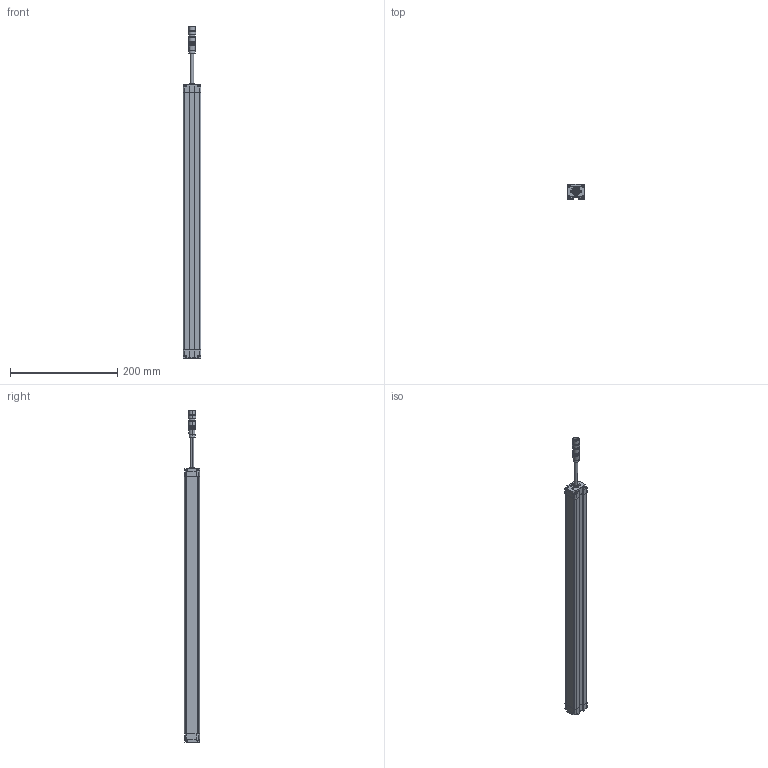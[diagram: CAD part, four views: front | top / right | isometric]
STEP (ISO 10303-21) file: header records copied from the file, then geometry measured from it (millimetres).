
FILE_DESCRIPTION((''),'2;1');
FILE_NAME('SMT1-CGQ_ASM','2025-08-08T08:25:43',('Administrator'),(''),'CREO PARAMETRIC BY PTC INC, 2016510','CREO PARAMETRIC BY PTC INC, 2016510','');
FILE_SCHEMA(('CONFIG_CONTROL_DESIGN'));
Length unit declared in the file: millimetre
Products named in the file (7): SMT1-XINGCAI-V1; SMT1-SDG-V1; SMT1-XDG-V1; M12-CHATOU; ST3X18; CT4-LVGUANGBAN; SMT1-CGQ_ASM
Assembly tree (13 placements, depth 2):
  SMT1-CGQ_ASM
    SMT1-XINGCAI-V1
    SMT1-SDG-V1
    SMT1-XDG-V1
    M12-CHATOU
    ST3X18  x8
    CT4-LVGUANGBAN
Bounding box: 33 x 28.02 x 619.5 mm (x, y, z)
Volume: 399518.3 mm3; surface area: 132328.7 mm2
Topology: 13 solids, 13 shells, 712 faces, 1868 edges, 1200 vertices
Faces by surface type: plane 382, cylinder 184, extrusion 86, sphere 32, cone 20, bspline 8
Entity records: 18128 total; most frequent: CARTESIAN_POINT 4347, ORIENTED_EDGE 2916, DIRECTION 2580, EDGE_CURVE 1458, VECTOR 1036, VERTEX_POINT 955, LINE 950, AXIS2_PLACEMENT_3D 772
